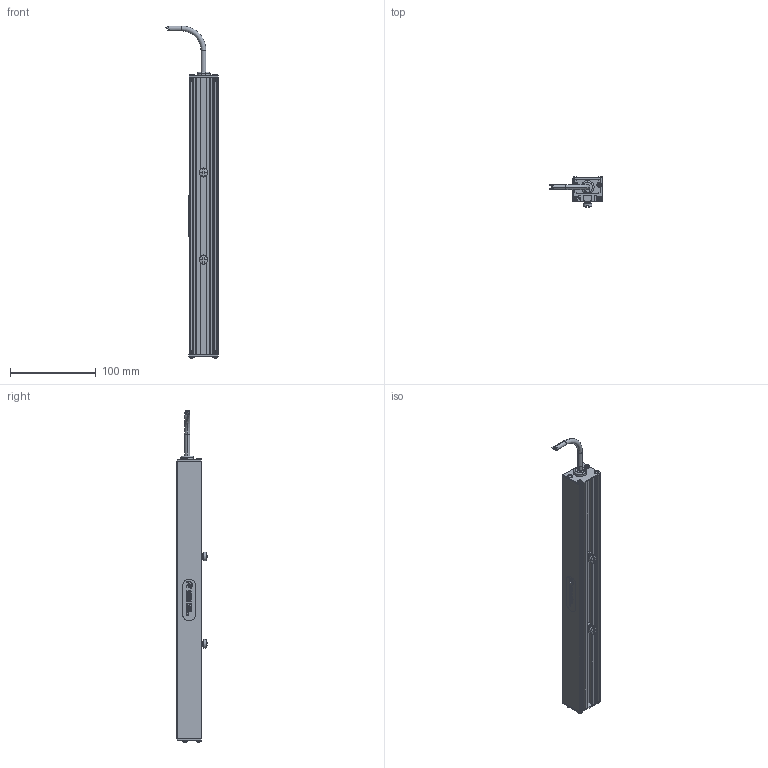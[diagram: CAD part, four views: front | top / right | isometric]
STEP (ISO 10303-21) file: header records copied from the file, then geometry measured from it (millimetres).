
FILE_DESCRIPTION (( 'STEP AP214' ), '1' );
FILE_NAME ('LL174 _NONSELAED__LL17412.stp', '2021-04-29T15:30:20', ( '' ), ( '' ), 'SwSTEP 2.0', 'SolidWorks 2018', '' );
FILE_SCHEMA (( 'AUTOMOTIVE_DESIGN' ));
Length unit declared in the file: inch
Products named in the file (12): 090928-XXX_090928-012; 091053; 116-02-007; LL174 _NONSELAED__LL17412; 096591-XX_096591-12; CHM6x8_91460A312; 1157 (no strap); 116-02-006; HN-M6_90592A016; 092408_TRUNCATED; 093145_93701A253
Assembly tree (21 placements, depth 3):
  LL174 _NONSELAED__LL17412
    096591-XX_096591-12
    116-02-007
    1157 (no strap)
    093145_93701A253  x8
    HN-M6_90592A016  x2
    CHM6x8_91460A312  x2
    090928-XXX_090928-012
    116-02-006
    091053  x2
      091053
    092408_TRUNCATED
Bounding box: 60.69 x 35.06 x 386.26 mm (x, y, z)
Volume: 116210 mm3; surface area: 119172.9 mm2
Topology: 28 solids, 28 shells, 1802 faces, 4720 edges, 2983 vertices
Faces by surface type: cylinder 839, plane 545, cone 249, bspline 102, torus 59, sphere 8
Entity records: 31047 total; most frequent: CARTESIAN_POINT 9882, ORIENTED_EDGE 3780, DIRECTION 3351, EDGE_CURVE 1890, VERTEX_POINT 1228, AXIS2_PLACEMENT_3D 1132, LINE 1087, VECTOR 1087
